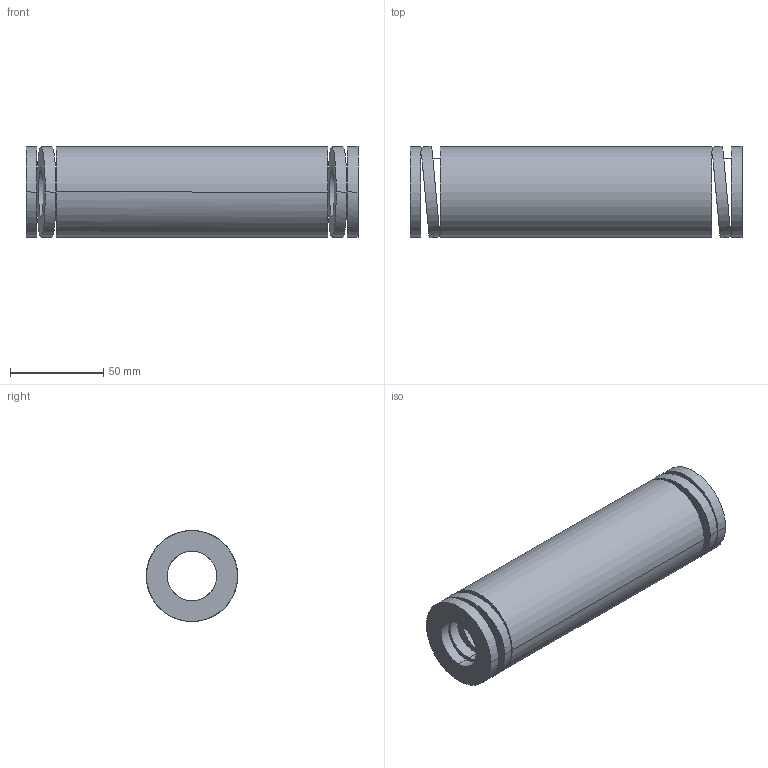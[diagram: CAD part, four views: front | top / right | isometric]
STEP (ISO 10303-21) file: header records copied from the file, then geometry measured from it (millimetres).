
FILE_DESCRIPTION(('CATIA V5 STEP Exchange'),'2;1');
FILE_NAME('C:\Users\Utente\Desktop\IO LAVORO\3D X SITO CF\X SITO\3D files 392B\392-B50-178.stp','2021-08-13T11:26:18+00:00',('none'),('none'),'CATIA Version 5 Release 20 GA (IN-10)','CATIA V5 STEP AP203','none');
FILE_SCHEMA(('CONFIG_CONTROL_DESIGN'));
Length unit declared in the file: millimetre
Products named in the file (1): 392-B50-178
Bounding box: 178 x 49.13 x 48.8 mm (x, y, z)
Volume: 221887.9 mm3; surface area: 53131.5 mm2
Topology: 1 solids, 1 shells, 38 faces, 92 edges, 64 vertices
Faces by surface type: cylinder 28, plane 10
Entity records: 1638 total; most frequent: CARTESIAN_POINT 761, ORIENTED_EDGE 184, DIRECTION 123, EDGE_CURVE 92, VERTEX_POINT 64, AXIS2_PLACEMENT_3D 58, EDGE_LOOP 56, B_SPLINE_CURVE_WITH_KNOTS 45
